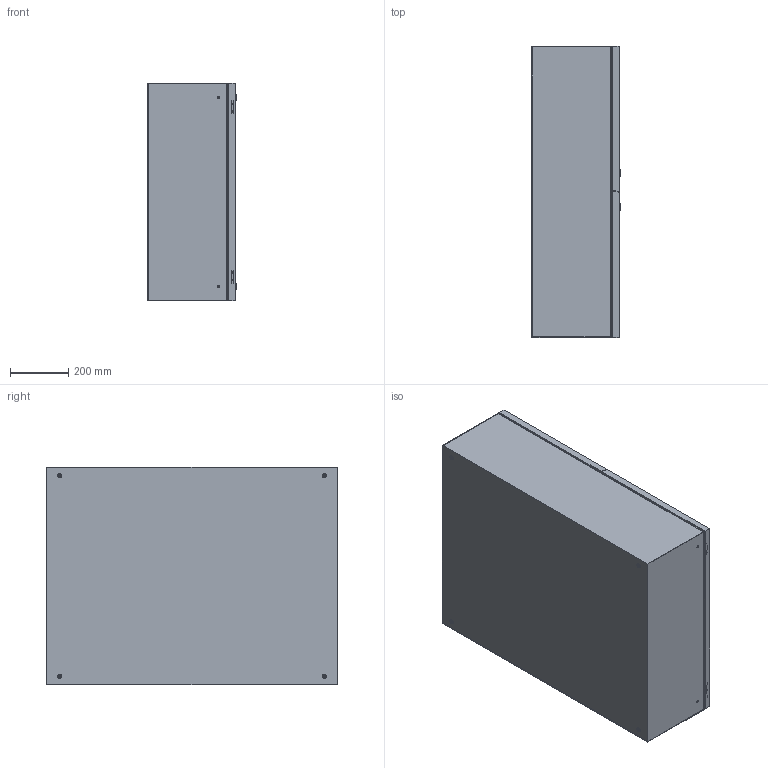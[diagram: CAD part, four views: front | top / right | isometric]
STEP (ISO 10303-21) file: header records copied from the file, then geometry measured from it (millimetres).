
FILE_DESCRIPTION(/* description */ ('Unknown'),/* implementation_level */ '2;1');
FILE_NAME(/* name */ 'CCA10007530',/* time_stamp */ '2024-07-17T13:34:18+02:00',/* author */ ('Unknown'),/* organization */ ('Unknown'),/* preprocessor_version */ 'ST-DEVELOPER v19.4',/* originating_system */ 'Solid Edge',/* authorisation */ 'Unknown');
FILE_SCHEMA (('AUTOMOTIVE_DESIGN {1 0 10303 214 3 1 1}'));
Length unit declared in the file: millimetre
Products named in the file (25): CCA10007530; C000X000.96; C000X000.97; C0000000.85; C0000000.02; AE00198.02; AE00989.10; AE00417.01; C0000000.40; C000X000.95; C0000000.46; C0000000.04; C0000000.05; AE00316.01; AE00601.01; AE00891.02; C0000000.01; AE00121.01; C0000000.06; C0000001.23; C0000000.06_GOMMA; AE00906.05_oa_0; C000X000.98; C000X000.99; C0000000.86
Assembly tree (66 placements, depth 4):
  CCA10007530
    C000X000.96
      C000X000.97
        C0000000.85
      C0000000.02  x2
      AE00198.02  x2
      AE00989.10  x2
      AE00417.01  x2
    AE00198.02  x4
    C0000000.40
    C000X000.95
      C0000000.46
      C0000000.04  x4
      C0000000.05  x4
      AE00316.01  x4
      AE00601.01  x4
      AE00891.02  x4
      C0000000.01  x4
      AE00417.01  x4
      AE00121.01  x4
      C0000000.06  x2
        C0000001.23
        C0000000.06_GOMMA
      AE00906.05_oa_0
    C000X000.98
      C000X000.99
        C0000000.86
      C0000000.02  x2
      AE00198.02  x2
      AE00989.10  x2
      AE00417.01  x2
Bounding box: 305 x 1000 x 750 mm (x, y, z)
Volume: 6983846.3 mm3; surface area: 5423996.3 mm2
Topology: 65 solids, 65 shells, 1309 faces, 3187 edges, 2070 vertices
Faces by surface type: plane 837, cylinder 328, torus 80, cone 64
Full cylindrical faces by diameter (mm): 2.6 x4, 4 x8, 4.8 x4, 4.917 x8, 4.918 x4, 5.4 x4, 6 x24, 6.4 x4, 7.5 x8, 8 x8, 8.376 x8, 10 x8, 10.25 x4, 10.5 x8, 11 x4, 13.6 x4, 14 x8, 15 x4, 16 x8, 16.3 x4, 19.5 x4, 28 x4
Entity records: 14882 total; most frequent: CARTESIAN_POINT 2296, DIRECTION 2263, ORIENTED_EDGE 2032, EDGE_CURVE 1016, AXIS2_PLACEMENT_3D 771, LINE 721, VECTOR 721, VERTEX_POINT 695
